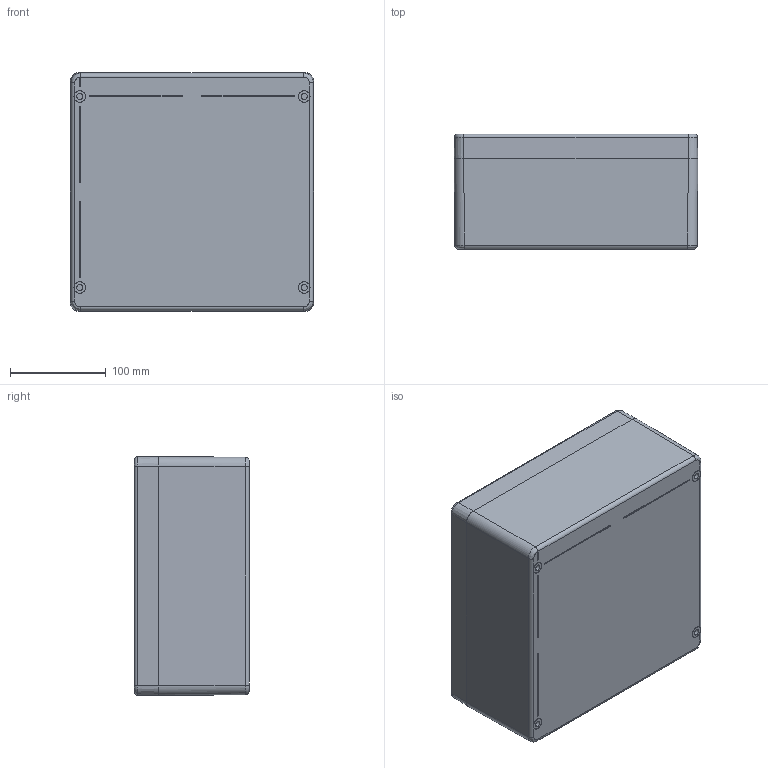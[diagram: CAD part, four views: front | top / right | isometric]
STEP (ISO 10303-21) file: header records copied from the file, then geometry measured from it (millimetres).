
FILE_DESCRIPTION((''),'2;1');
FILE_NAME('4374000000_ASM','2024-01-03T11:22:05',('silke.otte'),(''),'CREO PARAMETRIC BY PTC INC, 2022124','CREO PARAMETRIC BY PTC INC, 2022124','');
FILE_SCHEMA(('AUTOMOTIVE_DESIGN { 1 0 10303 214 1 1 1 1 }'));
Length unit declared in the file: millimetre
Products named in the file (12): 9331010000; 9502218000; 9502217000; 9331010000_ASM; 9332010000; CP-DICHTUNG_45; 9614004100_ASM; 9262006000; 9261027000; 9258857000; 9258838000; 4374000000_ASM
Assembly tree (26 placements, depth 3):
  4374000000_ASM
    9331010000_ASM
      9331010000
      9502218000  x6
      9502217000  x4
    9614004100_ASM
      9332010000
      CP-DICHTUNG_45
    9262006000  x4
    9261027000  x4
    9258857000  x2
    9258838000
Bounding box: 255 x 120.6 x 250 mm (x, y, z)
Volume: 1502129.3 mm3; surface area: 521857.6 mm2
Topology: 24 solids, 38 shells, 2260 faces, 9802 edges, 11314 vertices
Faces by surface type: plane 1620, cone 412, cylinder 174, bspline 30, torus 24
Entity records: 53734 total; most frequent: CARTESIAN_POINT 12374, DIRECTION 6508, ORIENTED_EDGE 3944, VECTOR 3183, LINE 3183, PRESENTATION_STYLE_ASSIGNMENT 2348, STYLED_ITEM 2330, CURVE_STYLE 2318
